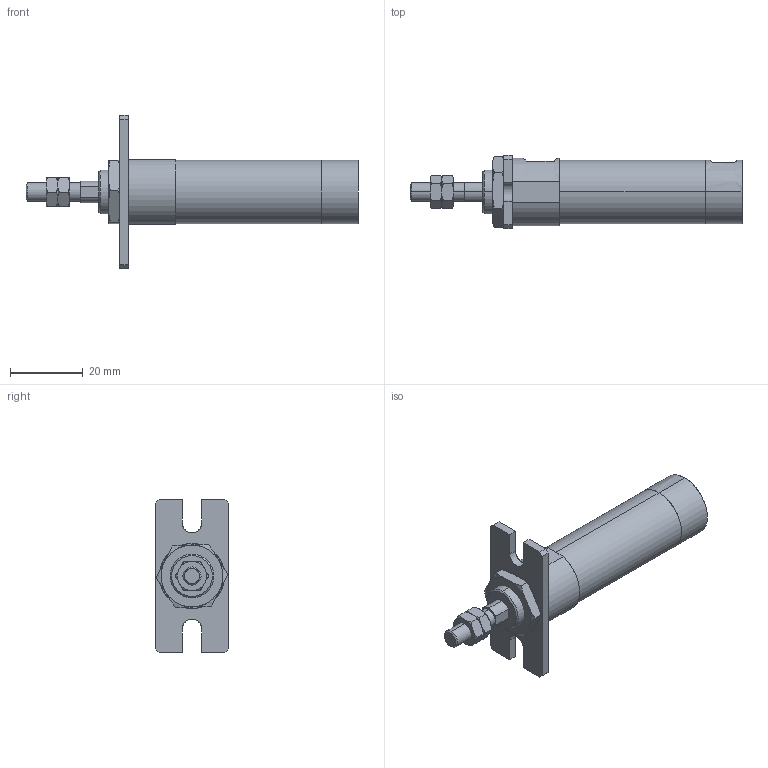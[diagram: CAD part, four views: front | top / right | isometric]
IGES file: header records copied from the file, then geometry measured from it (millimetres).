
Start section: SolidWorks IGES file using analytic representation for surfaces
Global section: file name: C:\Users\Toshiba\Desktop\ZGU2-16-15-A.IGS; native system: SolidWorks 2014; preprocessor: SolidWorks 2014; author: Toshiba; date: 160331.085659; units: millimetre
Bounding box: 91 x 20 x 42 mm (x, y, z)
Surface area: 7344.6 mm2 (no closed solid volume)
Topology: 0 solids, 0 shells, 129 faces, 1916 edges, 1912 vertices
Faces by surface type: bspline 93, revolution 36
